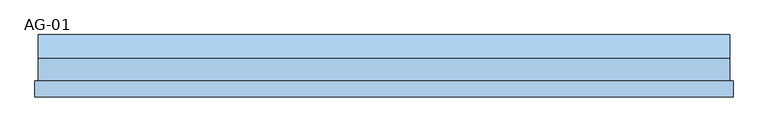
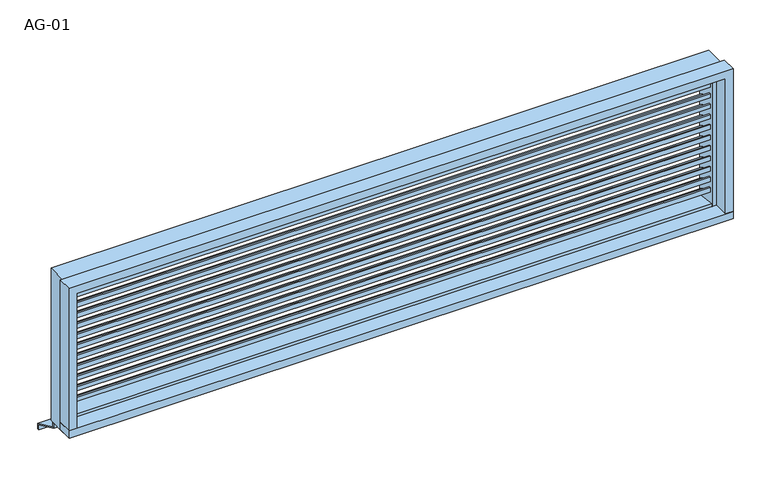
"""IFC4 building model written with IfcOpenShell, lengths in millimetres: window geometry, 営_単窓_ガラリ : AG-01."""

from ifc_helpers import new_model, si_unit, frame, origin, place, context, project, spatial, polyline, outline, extrude, source, transform, mapped, element, save


def ag_01_14c91b01(model_context):
    return source(origin(), model_context, "Body", "SweptSolid", [
        extrude(outline(polyline([(15.0, 1581.8857291), (15.0, 1563.6363636), (10.0, 1563.6363636), (10.0, 1578.6363636), (-35.0, 1598.6363636), (-35.0, 1613.6363636), (-30.0, 1613.6363636), (-30.0, 1601.8857291), (15.0, 1581.8857291)])), frame((-1050.0, 0.0, 0.0), z_axis=(1.0, 0.0, 0.0), x_axis=(0.0, 1.0, 0.0)), (0.0, 0.0, 1.0), 2100.0),
        extrude(outline(polyline([(15.0, 1545.5220927), (15.0, 1527.2727273), (10.0, 1527.2727273), (10.0, 1542.2727273), (-35.0, 1562.2727273), (-35.0, 1577.2727273), (-30.0, 1577.2727273), (-30.0, 1565.5220927), (15.0, 1545.5220927)])), frame((-1050.0, 0.0, 0.0), z_axis=(1.0, 0.0, 0.0), x_axis=(0.0, 1.0, 0.0)), (0.0, 0.0, 1.0), 2100.0),
        extrude(outline(polyline([(15.0, 1509.1584564), (15.0, 1490.9090909), (10.0, 1490.9090909), (10.0, 1505.9090909), (-35.0, 1525.9090909), (-35.0, 1540.9090909), (-30.0, 1540.9090909), (-30.0, 1529.1584564), (15.0, 1509.1584564)])), frame((-1050.0, 0.0, 0.0), z_axis=(1.0, 0.0, 0.0), x_axis=(0.0, 1.0, 0.0)), (0.0, 0.0, 1.0), 2100.0),
        extrude(outline(polyline([(15.0, 1472.79482), (15.0, 1454.5454545), (10.0, 1454.5454545), (10.0, 1469.5454545), (-35.0, 1489.5454545), (-35.0, 1504.5454545), (-30.0, 1504.5454545), (-30.0, 1492.79482), (15.0, 1472.79482)])), frame((-1050.0, 0.0, 0.0), z_axis=(1.0, 0.0, 0.0), x_axis=(0.0, 1.0, 0.0)), (0.0, 0.0, 1.0), 2100.0),
        extrude(outline(polyline([(15.0, 1436.4311836), (15.0, 1418.1818182), (10.0, 1418.1818182), (10.0, 1433.1818182), (-35.0, 1453.1818182), (-35.0, 1468.1818182), (-30.0, 1468.1818182), (-30.0, 1456.4311836), (15.0, 1436.4311836)])), frame((-1050.0, 0.0, 0.0), z_axis=(1.0, 0.0, 0.0), x_axis=(0.0, 1.0, 0.0)), (0.0, 0.0, 1.0), 2100.0),
        extrude(outline(polyline([(15.0, 1400.0675473), (15.0, 1381.8181818), (10.0, 1381.8181818), (10.0, 1396.8181818), (-35.0, 1416.8181818), (-35.0, 1431.8181818), (-30.0, 1431.8181818), (-30.0, 1420.0675473), (15.0, 1400.0675473)])), frame((-1050.0, 0.0, 0.0), z_axis=(1.0, 0.0, 0.0), x_axis=(0.0, 1.0, 0.0)), (0.0, 0.0, 1.0), 2100.0),
        extrude(outline(polyline([(15.0, 1363.7039109), (15.0, 1345.4545455), (10.0, 1345.4545455), (10.0, 1360.4545455), (-35.0, 1380.4545455), (-35.0, 1395.4545455), (-30.0, 1395.4545455), (-30.0, 1383.7039109), (15.0, 1363.7039109)])), frame((-1050.0, 0.0, 0.0), z_axis=(1.0, 0.0, 0.0), x_axis=(0.0, 1.0, 0.0)), (0.0, 0.0, 1.0), 2100.0),
        extrude(outline(polyline([(15.0, 1327.3402745), (15.0, 1309.0909091), (10.0, 1309.0909091), (10.0, 1324.0909091), (-35.0, 1344.0909091), (-35.0, 1359.0909091), (-30.0, 1359.0909091), (-30.0, 1347.3402745), (15.0, 1327.3402745)])), frame((-1050.0, 0.0, 0.0), z_axis=(1.0, 0.0, 0.0), x_axis=(0.0, 1.0, 0.0)), (0.0, 0.0, 1.0), 2100.0),
        extrude(outline(polyline([(15.0, 1290.9766382), (15.0, 1272.7272727), (10.0, 1272.7272727), (10.0, 1287.7272727), (-35.0, 1307.7272727), (-35.0, 1322.7272727), (-30.0, 1322.7272727), (-30.0, 1310.9766382), (15.0, 1290.9766382)])), frame((-1050.0, 0.0, 0.0), z_axis=(1.0, 0.0, 0.0), x_axis=(0.0, 1.0, 0.0)), (0.0, 0.0, 1.0), 2100.0),
        extrude(outline(polyline([(15.0, 1254.6130018), (15.0, 1236.3636364), (10.0, 1236.3636364), (10.0, 1251.3636364), (-35.0, 1271.3636364), (-35.0, 1286.3636364), (-30.0, 1286.3636364), (-30.0, 1274.6130018), (15.0, 1254.6130018)])), frame((-1050.0, 0.0, 0.0), z_axis=(1.0, 0.0, 0.0), x_axis=(0.0, 1.0, 0.0)), (0.0, 0.0, 1.0), 2100.0),
        extrude(outline(polyline([(15.0, 1618.2493654), (15.0, 1600.0), (10.0, 1600.0), (10.0, 1615.0), (-35.0, 1635.0), (-35.0, 1650.0), (-30.0, 1650.0), (-30.0, 1638.2493654), (15.0, 1618.2493654)])), frame((-1050.0, 0.0, 0.0), z_axis=(1.0, 0.0, 0.0), x_axis=(0.0, 1.0, 0.0)), (0.0, 0.0, 1.0), 2100.0),
        extrude(outline(polyline([(15.0, 1218.2493654), (15.0, 1200.0), (10.0, 1200.0), (10.0, 1215.0), (-35.0, 1235.0), (-35.0, 1250.0), (-30.0, 1250.0), (-30.0, 1238.2493654), (15.0, 1218.2493654)])), frame((-1050.0, 0.0, 0.0), z_axis=(1.0, 0.0, 0.0), x_axis=(0.0, 1.0, 0.0)), (0.0, 0.0, 1.0), 2100.0),
        extrude(outline(polyline([(1090.0, -95.0), (-1090.0, -95.0), (-1090.0, -45.0), (1090.0, -45.0), (1090.0, -95.0)])), frame((0.0, 0.0, 1165.0), z_axis=(0.0, 0.0, 1.0), x_axis=(1.0, 0.0, 0.0)), (0.0, 0.0, 1.0), 25.0),
        extrude(outline(polyline([(15.0, 1135.0), (100.0, 1095.0), (100.0, 1075.0), (95.0014518, 1075.0), (95.0014518, 1091.8262891), (10.0, 1131.8269723), (10.0, 1150.0), (15.0, 1150.0), (15.0, 1135.0)])), frame((-1080.0, 0.0, 0.0), z_axis=(1.0, 0.0, 0.0), x_axis=(0.0, 1.0, 0.0)), (0.0, 0.0, 1.0), 2160.0),
        extrude(outline(polyline([(1165.0, -1090.0), (1165.0, -1065.0), (1660.0, -1065.0), (1660.0, 1065.0), (1165.0, 1065.0), (1165.0, 1090.0), (1685.0, 1090.0), (1685.0, -1090.0), (1165.0, -1090.0)])), frame((0.0, -95.0, 0.0), z_axis=(0.0, 1.0, 0.0), x_axis=(0.0, 0.0, 1.0)), (0.0, 0.0, 1.0), 50.0),
        extrude(outline(polyline([(1150.0, -1080.0), (1150.0, -1050.0), (1650.0, -1050.0), (1650.0, 1050.0), (1150.0, 1050.0), (1150.0, 1080.0), (1680.0, 1080.0), (1680.0, -1080.0), (1150.0, -1080.0)])), frame((0.0, -45.0, 0.0), z_axis=(0.0, 1.0, 0.0), x_axis=(0.0, 0.0, 1.0)), (0.0, 0.0, 1.0), 70.0),
        extrude(outline(polyline([(-45.0, 1150.0), (-45.0, 1200.0), (25.0, 1190.6666667), (25.0, 1150.0), (-45.0, 1150.0)])), frame((-1050.0, 0.0, 0.0), z_axis=(1.0, 0.0, 0.0), x_axis=(0.0, 1.0, 0.0)), (0.0, 0.0, 1.0), 2100.0),
    ])


if __name__ == "__main__":
    model = new_model("IFC4")
    model_context = context("Model", 3, world=origin())
    ifc_project = project(units=[si_unit("LENGTHUNIT", "METRE", prefix="MILLI")], contexts=[model_context])
    site = spatial("IfcSite", under=ifc_project)
    building = spatial("IfcBuilding", under=site)
    placement = place(None, origin())
    ag_01_shape = ag_01_14c91b01(model_context)
    element("IfcWindow", 1, ObjectType="営_単窓_ガラリ : AG-01", at=placement, inside=building, context=model_context, shape_type="MappedRepresentation", body=[
        mapped(ag_01_shape, transform((0.0, 0.0, 0.0), x_axis=(1.0, 0.0, 0.0), y_axis=(0.0, 1.0, 0.0), z_axis=(0.0, 0.0, 1.0))),
    ])
    save(model, "model.ifc")
